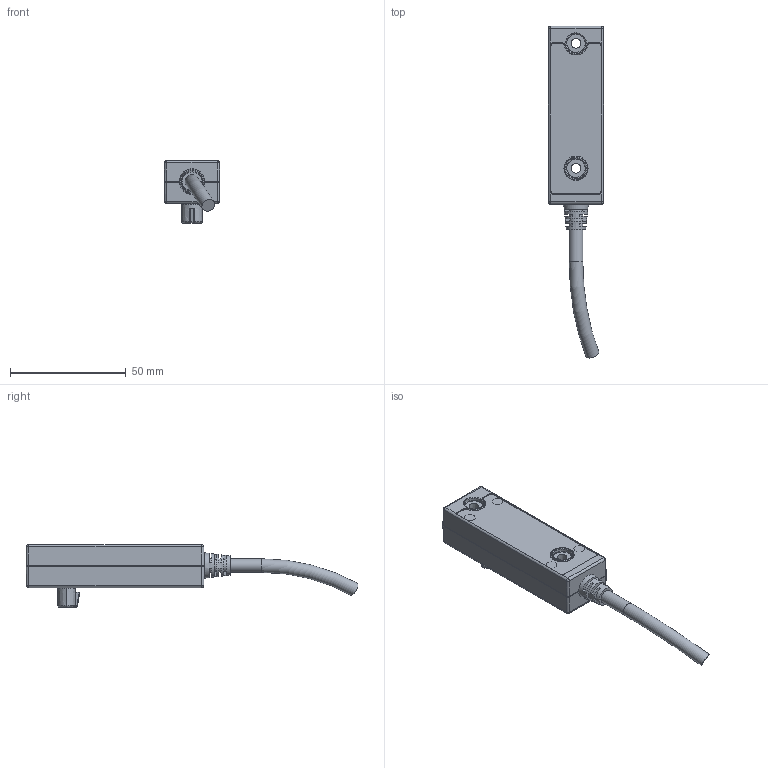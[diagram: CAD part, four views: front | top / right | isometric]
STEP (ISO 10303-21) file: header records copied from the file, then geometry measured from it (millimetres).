
FILE_DESCRIPTION(/* description */ (''),/* implementation_level */ '2;1');
FILE_NAME(/* name */ 'L:\ENG\Projects\1S030\Related\1S30_Example_Model.stp',/* time_stamp */ '2023-04-18T08:20:06+10:00',/* author */ ('sarah.rady'),/* organization */ (''),/* preprocessor_version */ 'ST-DEVELOPER v19',/* originating_system */ 'Autodesk Inventor 2023',/* authorisation */ '');
FILE_SCHEMA (('AUTOMOTIVE_DESIGN { 1 0 10303 214 3 1 1 }'));
Products named in the file (1): 1S30 - RMS
Bounding box: 24 x 143.47 x 27.2 mm (x, y, z)
Volume: 16042.5 mm3; surface area: 18011.3 mm2
Topology: 1 solids, 1 shells, 1789 faces, 4571 edges, 2805 vertices
Faces by surface type: plane 811, bspline 642, cylinder 244, cone 69, torus 23
Full cylindrical faces by diameter (mm): 2.1 x2, 5.9 x3, 10.4 x1
Entity records: 87810 total; most frequent: CARTESIAN_POINT 47719, ORIENTED_EDGE 9014, DIRECTION 6410, EDGE_CURVE 4507, VERTEX_POINT 2805, LINE 2358, VECTOR 2358, AXIS2_PLACEMENT_3D 2026
